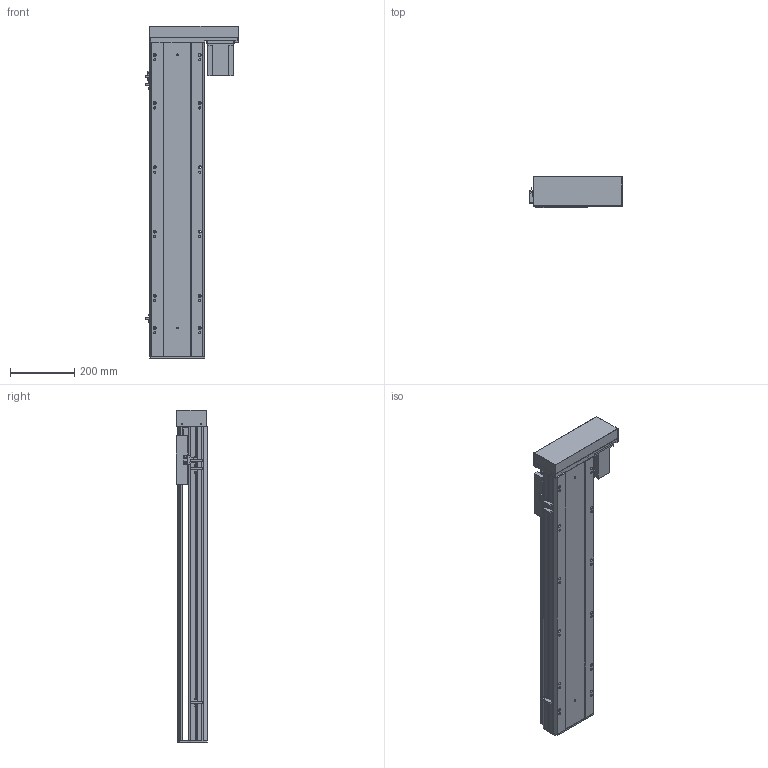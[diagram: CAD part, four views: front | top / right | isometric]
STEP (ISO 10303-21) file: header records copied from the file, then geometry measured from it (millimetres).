
FILE_DESCRIPTION (( 'STEP AP203' ), '1' );
FILE_NAME ('Y170-D10-S750-BR-P750W.STEP', '2020-01-21T12:25:02', ( '微软用户' ), ( '微软中国' ), 'SwSTEP 2.0', 'SolidWorks 2017', '' );
FILE_SCHEMA (( 'CONFIG_CONTROL_DESIGN' ));
Length unit declared in the file: millimetre
Products named in the file (12): Y100-135俋离換覜ん; Y170-BL-P750W楊擘啣; Y170-D10-S750-BR-P750W; 侂狟750W; EGH20賑輸_蕼偞; Y雄赽釱-耜蚾; Y170-陔遴奻裔-BR; Y-BL.BR-俋欶; Y--BL蟀諉啣-陔遴-; Y170耜裔--準---; YD-Y100-135-新外置传感挡片(通用）; 170--掛极-BR
Assembly tree (14 placements, depth 2):
  Y170-D10-S750-BR-P750W
    Y170耜裔--準---
    170--掛极-BR
    Y170-BL-P750W楊擘啣
    侂狟750W
    EGH20賑輸_蕼偞  x2
    Y雄赽釱-耜蚾
    Y170-陔遴奻裔-BR
    Y-BL.BR-俋欶
    Y--BL蟀諉啣-陔遴-
    YD-Y100-135-新外置传感挡片(通用）
    Y100-135俋离換覜ん  x3
Bounding box: 289 x 97 x 1033.5 mm (x, y, z)
Volume: 5151752.8 mm3; surface area: 1759281.6 mm2
Topology: 14 solids, 14 shells, 921 faces, 2594 edges, 1712 vertices
Faces by surface type: cylinder 462, plane 443, cone 16
Entity records: 29130 total; most frequent: CARTESIAN_POINT 5150, DIRECTION 4828, ORIENTED_EDGE 4684, EDGE_CURVE 2342, AXIS2_PLACEMENT_3D 1714, VERTEX_POINT 1556, LINE 1400, VECTOR 1400
